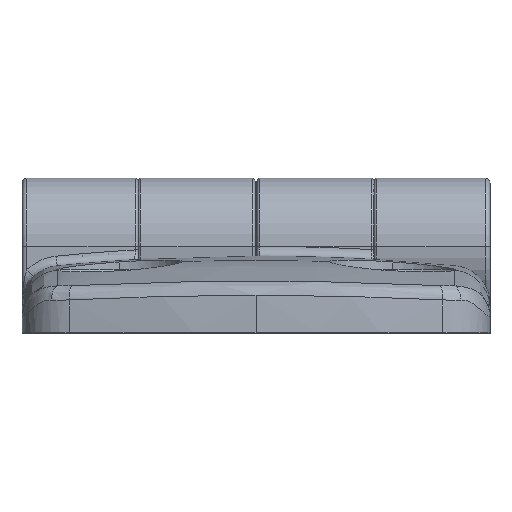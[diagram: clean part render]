
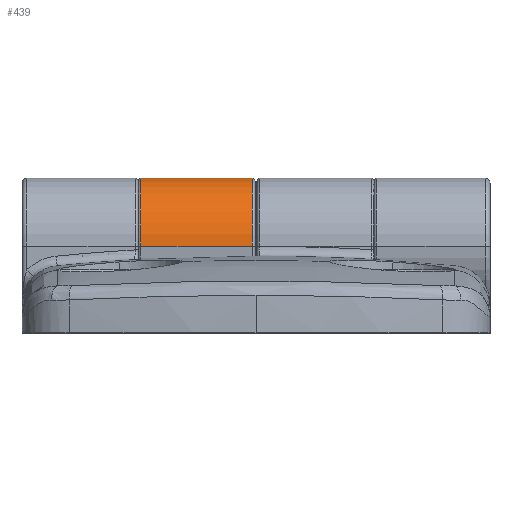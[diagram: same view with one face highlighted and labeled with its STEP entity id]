
A CAD part, top view. The second image highlights one B-rep face of the part: STEP entity #439.
In plain terms, the highlighted cylindrical face has radius 7 mm (diameter 14 mm), a partial arc.
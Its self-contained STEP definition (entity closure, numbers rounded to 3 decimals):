
#439=ADVANCED_FACE('NONE',(#1002),#1003,.T.);
#1002=FACE_OUTER_BOUND('',#2442,.T.);
#1003=CYLINDRICAL_SURFACE('',#2443,7.0);
#2442=EDGE_LOOP('',(#4377,#4378,#4379,#4380));
#2443=AXIS2_PLACEMENT_3D('',#4381,#4382,#4383);
#4377=ORIENTED_EDGE('',*,*,#5848,.F.);
#4378=ORIENTED_EDGE('',*,*,#5849,.T.);
#4379=ORIENTED_EDGE('',*,*,#5850,.T.);
#4380=ORIENTED_EDGE('',*,*,#5851,.T.);
#4381=CARTESIAN_POINT('',(24.0,8.9,0.0));
#4382=DIRECTION('',(1.0,0.0,-0.0));
#4383=DIRECTION('',(0.0,0.0,1.0));
#5848=EDGE_CURVE('NONE',#6895,#6739,#6896,.T.);
#5849=EDGE_CURVE('NONE',#6895,#6327,#6897,.T.);
#5850=EDGE_CURVE('NONE',#6327,#6898,#6899,.T.);
#5851=EDGE_CURVE('NONE',#6898,#6739,#6900,.T.);
#6327=VERTEX_POINT('NONE',#7778);
#6739=VERTEX_POINT('NONE',#8907);
#6895=VERTEX_POINT('NONE',#9326);
#6896=LINE('',#9327,#9328);
#6897=CIRCLE('',#9329,7.0);
#6898=VERTEX_POINT('NONE',#9330);
#6899=LINE('',#9331,#9332);
#6900=CIRCLE('',#9333,7.0);
#7778=CARTESIAN_POINT('',(-0.4,8.899,-7.0));
#8907=CARTESIAN_POINT('',(-11.8,8.9,7.0));
#9326=CARTESIAN_POINT('',(-0.4,8.9,7.0));
#9327=CARTESIAN_POINT('',(24.0,8.9,7.0));
#9328=VECTOR('',#10756,1000.0);
#9329=AXIS2_PLACEMENT_3D('',#10757,#10758,#10759);
#9330=CARTESIAN_POINT('',(-11.8,8.9,-7.0));
#9331=CARTESIAN_POINT('',(24.0,8.9,-7.0));
#9332=VECTOR('',#10760,1000.0);
#9333=AXIS2_PLACEMENT_3D('',#10761,#10762,#10763);
#10756=DIRECTION('',(-1.0,-0.0,-0.0));
#10757=CARTESIAN_POINT('',(-0.4,8.9,0.0));
#10758=DIRECTION('',(-1.0,0.0,-0.0));
#10759=DIRECTION('',(0.0,0.0,-1.0));
#10760=DIRECTION('',(-1.0,-0.0,-0.0));
#10761=CARTESIAN_POINT('',(-11.8,8.9,0.0));
#10762=DIRECTION('',(1.0,-0.0,0.0));
#10763=DIRECTION('',(0.0,0.0,-1.0));
